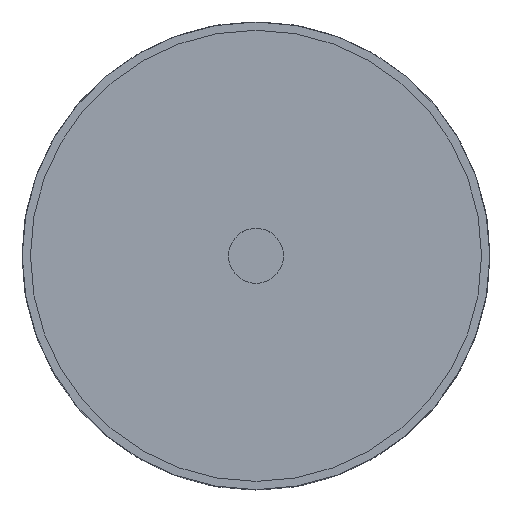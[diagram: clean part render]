
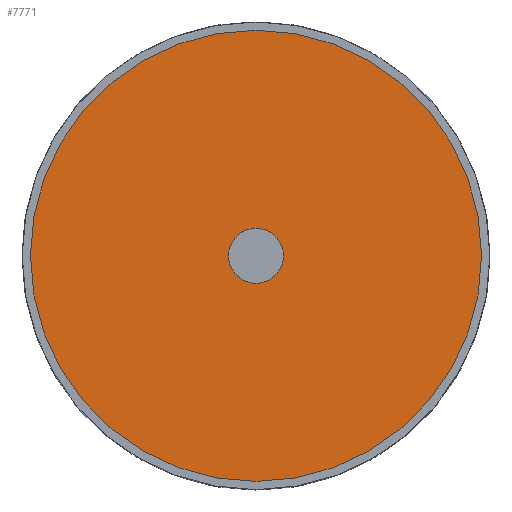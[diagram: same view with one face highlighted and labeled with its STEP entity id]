
A CAD part, top view. The second image highlights one B-rep face of the part: STEP entity #7771.
In plain terms, the highlighted planar face has unit normal (0, 0, 1).
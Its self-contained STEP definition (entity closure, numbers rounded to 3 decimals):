
#7687 = EDGE_CURVE('',#7688,#7688,#7690,.T.);
#7688 = VERTEX_POINT('',#7689);
#7689 = CARTESIAN_POINT('',(8.2,0.,8.8));
#7690 = SURFACE_CURVE('',#7691,(#7696,#7708),.PCURVE_S1.);
#7691 = CIRCLE('',#7692,8.2);
#7692 = AXIS2_PLACEMENT_3D('',#7693,#7694,#7695);
#7693 = CARTESIAN_POINT('',(0.,0.,8.8));
#7694 = DIRECTION('',(0.,0.,1.));
#7695 = DIRECTION('',(1.,0.,-0.));
#7696 = PCURVE('',#7697,#7702);
#7697 = CYLINDRICAL_SURFACE('',#7698,8.2);
#7698 = AXIS2_PLACEMENT_3D('',#7699,#7700,#7701);
#7699 = CARTESIAN_POINT('',(0.,0.,8.));
#7700 = DIRECTION('',(0.,0.,1.));
#7701 = DIRECTION('',(1.,0.,-0.));
#7702 = DEFINITIONAL_REPRESENTATION('',(#7703),#7707);
#7703 = LINE('',#7704,#7705);
#7704 = CARTESIAN_POINT('',(0.,0.8));
#7705 = VECTOR('',#7706,1.);
#7706 = DIRECTION('',(1.,0.));
#7707 = ( GEOMETRIC_REPRESENTATION_CONTEXT(2) 
PARAMETRIC_REPRESENTATION_CONTEXT() REPRESENTATION_CONTEXT('2D SPACE',''
  ) );
#7708 = PCURVE('',#7709,#7714);
#7709 = PLANE('',#7710);
#7710 = AXIS2_PLACEMENT_3D('',#7711,#7712,#7713);
#7711 = CARTESIAN_POINT('',(0.,0.,8.8));
#7712 = DIRECTION('',(0.,0.,1.));
#7713 = DIRECTION('',(1.,0.,-0.));
#7714 = DEFINITIONAL_REPRESENTATION('',(#7715),#7719);
#7715 = CIRCLE('',#7716,8.2);
#7716 = AXIS2_PLACEMENT_2D('',#7717,#7718);
#7717 = CARTESIAN_POINT('',(0.,0.));
#7718 = DIRECTION('',(1.,0.));
#7719 = ( GEOMETRIC_REPRESENTATION_CONTEXT(2) 
PARAMETRIC_REPRESENTATION_CONTEXT() REPRESENTATION_CONTEXT('2D SPACE',''
  ) );
#7771 = ADVANCED_FACE('',(#7772,#7775),#7709,.T.);
#7772 = FACE_BOUND('',#7773,.T.);
#7773 = EDGE_LOOP('',(#7774));
#7774 = ORIENTED_EDGE('',*,*,#7687,.T.);
#7775 = FACE_BOUND('',#7776,.T.);
#7776 = EDGE_LOOP('',(#7777));
#7777 = ORIENTED_EDGE('',*,*,#7778,.F.);
#7778 = EDGE_CURVE('',#7779,#7779,#7781,.T.);
#7779 = VERTEX_POINT('',#7780);
#7780 = CARTESIAN_POINT('',(1.,0.,8.8));
#7781 = SURFACE_CURVE('',#7782,(#7787,#7794),.PCURVE_S1.);
#7782 = CIRCLE('',#7783,1.);
#7783 = AXIS2_PLACEMENT_3D('',#7784,#7785,#7786);
#7784 = CARTESIAN_POINT('',(0.,0.,8.8));
#7785 = DIRECTION('',(0.,0.,1.));
#7786 = DIRECTION('',(1.,0.,-0.));
#7787 = PCURVE('',#7709,#7788);
#7788 = DEFINITIONAL_REPRESENTATION('',(#7789),#7793);
#7789 = CIRCLE('',#7790,1.);
#7790 = AXIS2_PLACEMENT_2D('',#7791,#7792);
#7791 = CARTESIAN_POINT('',(0.,0.));
#7792 = DIRECTION('',(1.,0.));
#7793 = ( GEOMETRIC_REPRESENTATION_CONTEXT(2) 
PARAMETRIC_REPRESENTATION_CONTEXT() REPRESENTATION_CONTEXT('2D SPACE',''
  ) );
#7794 = PCURVE('',#7795,#7800);
#7795 = CYLINDRICAL_SURFACE('',#7796,1.);
#7796 = AXIS2_PLACEMENT_3D('',#7797,#7798,#7799);
#7797 = CARTESIAN_POINT('',(0.,0.,7.99));
#7798 = DIRECTION('',(0.,0.,1.));
#7799 = DIRECTION('',(1.,0.,-0.));
#7800 = DEFINITIONAL_REPRESENTATION('',(#7801),#7805);
#7801 = LINE('',#7802,#7803);
#7802 = CARTESIAN_POINT('',(0.,0.81));
#7803 = VECTOR('',#7804,1.);
#7804 = DIRECTION('',(1.,0.));
#7805 = ( GEOMETRIC_REPRESENTATION_CONTEXT(2) 
PARAMETRIC_REPRESENTATION_CONTEXT() REPRESENTATION_CONTEXT('2D SPACE',''
  ) );
